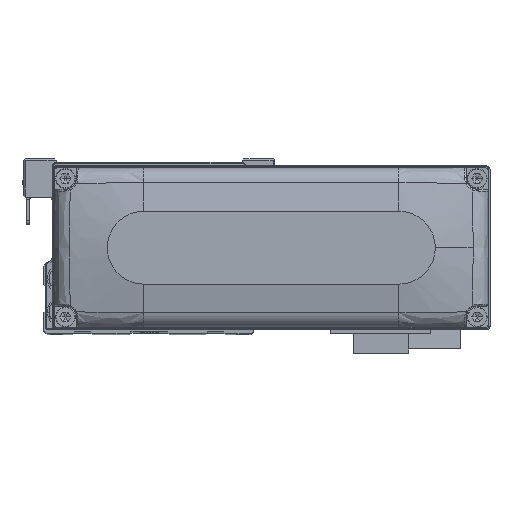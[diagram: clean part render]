
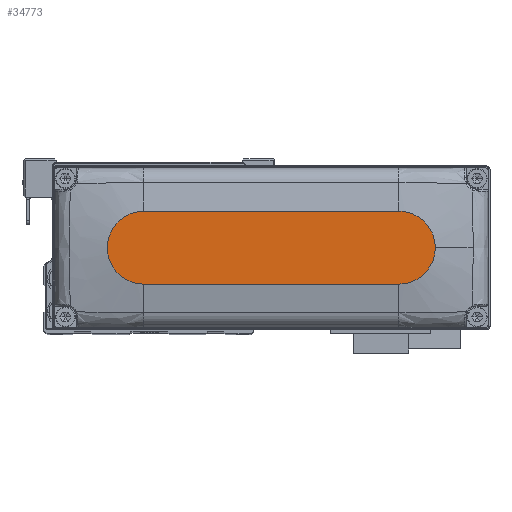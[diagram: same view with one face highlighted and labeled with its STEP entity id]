
A CAD part, top view. The second image highlights one B-rep face of the part: STEP entity #34773.
In plain terms, the highlighted planar face has unit normal (0, 0, 1).
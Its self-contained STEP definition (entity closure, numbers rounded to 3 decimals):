
#957 = CARTESIAN_POINT ( 'NONE',  ( 35., 0., 28. ) ) ;
#1527 = PLANE ( 'NONE',  #11481 ) ;
#2638 = EDGE_CURVE ( 'NONE', #29783, #30756, #22275, .T. ) ;
#3050 = EDGE_CURVE ( 'NONE', #8148, #23310, #22045, .T. ) ;
#3276 = DIRECTION ( 'NONE',  ( 0., 0., 1. ) ) ;
#4853 = CARTESIAN_POINT ( 'NONE',  ( -35., 10., 28. ) ) ;
#8034 = DIRECTION ( 'NONE',  ( 1., 0., 0. ) ) ;
#8148 = VERTEX_POINT ( 'NONE', #27043 ) ;
#8271 = DIRECTION ( 'NONE',  ( -1., 0., 0. ) ) ;
#8738 = CIRCLE ( 'NONE', #29317, 10. ) ;
#10411 = DIRECTION ( 'NONE',  ( 1., 0., 0. ) ) ;
#11225 = ORIENTED_EDGE ( 'NONE', *, *, #2638, .T. ) ;
#11481 = AXIS2_PLACEMENT_3D ( 'NONE', #12758, #23990, #35228 ) ;
#11516 = CARTESIAN_POINT ( 'NONE',  ( 45., 0., 28. ) ) ;
#11622 = AXIS2_PLACEMENT_3D ( 'NONE', #24407, #35630, #10411 ) ;
#12188 = DIRECTION ( 'NONE',  ( 0., 0., 1. ) ) ;
#12758 = CARTESIAN_POINT ( 'NONE',  ( 0., 0., 28. ) ) ;
#14511 = DIRECTION ( 'NONE',  ( 1., 0., 0. ) ) ;
#15104 = VERTEX_POINT ( 'NONE', #11516 ) ;
#15133 = ORIENTED_EDGE ( 'NONE', *, *, #21700, .T. ) ;
#15627 = CARTESIAN_POINT ( 'NONE',  ( 35., 10., 28. ) ) ;
#18970 = ORIENTED_EDGE ( 'NONE', *, *, #3050, .T. ) ;
#20485 = AXIS2_PLACEMENT_3D ( 'NONE', #957, #12188, #23429 ) ;
#20962 = VECTOR ( 'NONE', #8034, 1000. ) ;
#21700 = EDGE_CURVE ( 'NONE', #30756, #8148, #8738, .T. ) ;
#22045 = LINE ( 'NONE', #33271, #20962 ) ;
#22275 = LINE ( 'NONE', #33505, #35529 ) ;
#23310 = VERTEX_POINT ( 'NONE', #31044 ) ;
#23429 = DIRECTION ( 'NONE',  ( 1., 0., 0. ) ) ;
#23990 = DIRECTION ( 'NONE',  ( 0., 0., 1. ) ) ;
#24407 = CARTESIAN_POINT ( 'NONE',  ( 35., 0., 28. ) ) ;
#24683 = EDGE_CURVE ( 'NONE', #23310, #15104, #27499, .T. ) ;
#25358 = EDGE_CURVE ( 'NONE', #15104, #29783, #36345, .T. ) ;
#26762 = FACE_OUTER_BOUND ( 'NONE', #33667, .T. ) ;
#27043 = CARTESIAN_POINT ( 'NONE',  ( -35., -10., 28. ) ) ;
#27499 = CIRCLE ( 'NONE', #11622, 10. ) ;
#27572 = ORIENTED_EDGE ( 'NONE', *, *, #24683, .T. ) ;
#28506 = CARTESIAN_POINT ( 'NONE',  ( -35., 0., 28. ) ) ;
#29317 = AXIS2_PLACEMENT_3D ( 'NONE', #28506, #3276, #14511 ) ;
#29783 = VERTEX_POINT ( 'NONE', #15627 ) ;
#30756 = VERTEX_POINT ( 'NONE', #4853 ) ;
#31044 = CARTESIAN_POINT ( 'NONE',  ( 35., -10., 28. ) ) ;
#33271 = CARTESIAN_POINT ( 'NONE',  ( -35., -10., 28. ) ) ;
#33505 = CARTESIAN_POINT ( 'NONE',  ( -35., 10., 28. ) ) ;
#33667 = EDGE_LOOP ( 'NONE', ( #11225, #15133, #18970, #27572, #33929 ) ) ;
#33929 = ORIENTED_EDGE ( 'NONE', *, *, #25358, .T. ) ;
#34773 = ADVANCED_FACE ( 'NONE', ( #26762 ), #1527, .T. ) ;
#35228 = DIRECTION ( 'NONE',  ( 1., 0., 0. ) ) ;
#35529 = VECTOR ( 'NONE', #8271, 1000. ) ;
#35630 = DIRECTION ( 'NONE',  ( 0., 0., 1. ) ) ;
#36345 = CIRCLE ( 'NONE', #20485, 10. ) ;
